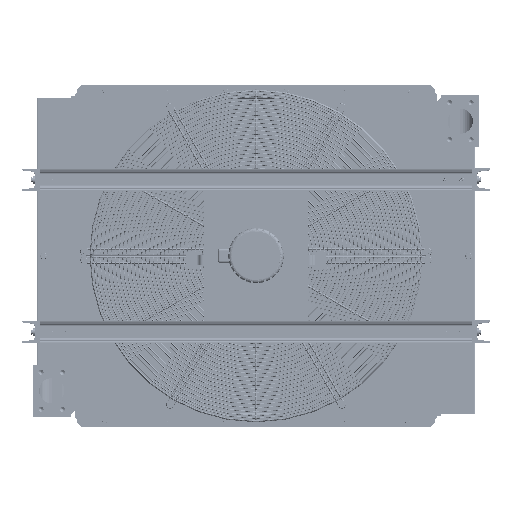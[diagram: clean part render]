
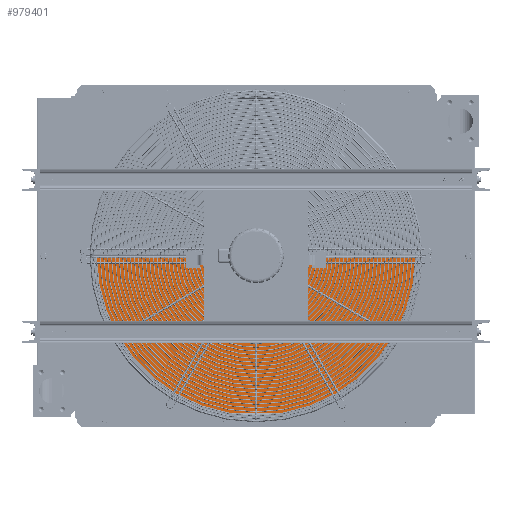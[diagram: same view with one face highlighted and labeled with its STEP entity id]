
A CAD part, top view. The second image highlights one B-rep face of the part: STEP entity #979401.
In plain terms, the highlighted planar face has unit normal (0, 0, 1).
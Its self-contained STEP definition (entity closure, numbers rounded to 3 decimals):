
#978921=CARTESIAN_POINT(' ',(-525.,0.,47.));
#978922=VERTEX_POINT(' ',#978921);
#978941=CARTESIAN_POINT(' ',(-525.,448.33,47.));
#978946=DIRECTION(' ',(0.,-1.,0.));
#978951=VECTOR(' ',#978946,1.);
#978956=LINE(' ',#978941,#978951);
#978961=CARTESIAN_POINT(' ',(-525.,448.33,47.));
#978962=VERTEX_POINT(' ',#978961);
#978966=EDGE_CURVE(' ',#978962,#978922,#978956,.T.);
#979186=CARTESIAN_POINT(' ',(525.,0.,47.));
#979187=VERTEX_POINT(' ',#979186);
#979201=CARTESIAN_POINT(' ',(525.,0.,47.));
#979206=DIRECTION(' ',(-1.,0.,0.));
#979211=VECTOR(' ',#979206,1.);
#979216=LINE(' ',#979201,#979211);
#979221=EDGE_CURVE(' ',#979187,#978922,#979216,.T.);
#979291=CARTESIAN_POINT(' ',(-525.,0.,47.));
#979296=DIRECTION(' ',(0.,0.,1.));
#979301=DIRECTION(' ',(1.,0.,0.));
#979306=AXIS2_PLACEMENT_3D(' ',#979291,#979296,#979301);
#979311=PLANE(' ',#979306);
#979316=ORIENTED_EDGE(' ',*,*,#979221,.F.);
#979321=CARTESIAN_POINT(' ',(525.,448.33,47.));
#979326=DIRECTION(' ',(0.,-1.,0.));
#979331=VECTOR(' ',#979326,1.);
#979336=LINE(' ',#979321,#979331);
#979341=CARTESIAN_POINT(' ',(525.,448.33,47.));
#979342=VERTEX_POINT(' ',#979341);
#979346=EDGE_CURVE(' ',#979342,#979187,#979336,.T.);
#979351=ORIENTED_EDGE(' ',*,*,#979346,.F.);
#979356=CARTESIAN_POINT(' ',(525.,448.33,47.));
#979361=DIRECTION(' ',(-1.,0.,0.));
#979366=VECTOR(' ',#979361,1.);
#979371=LINE(' ',#979356,#979366);
#979376=EDGE_CURVE(' ',#979342,#978962,#979371,.T.);
#979381=ORIENTED_EDGE(' ',*,*,#979376,.T.);
#979386=ORIENTED_EDGE(' ',*,*,#978966,.T.);
#979391=EDGE_LOOP(' ',(#979316,#979351,#979381,#979386));
#979396=FACE_OUTER_BOUND(' ',#979391,.T.);
#979401=ADVANCED_FACE(' ',(#979396),#979311,.T.);
